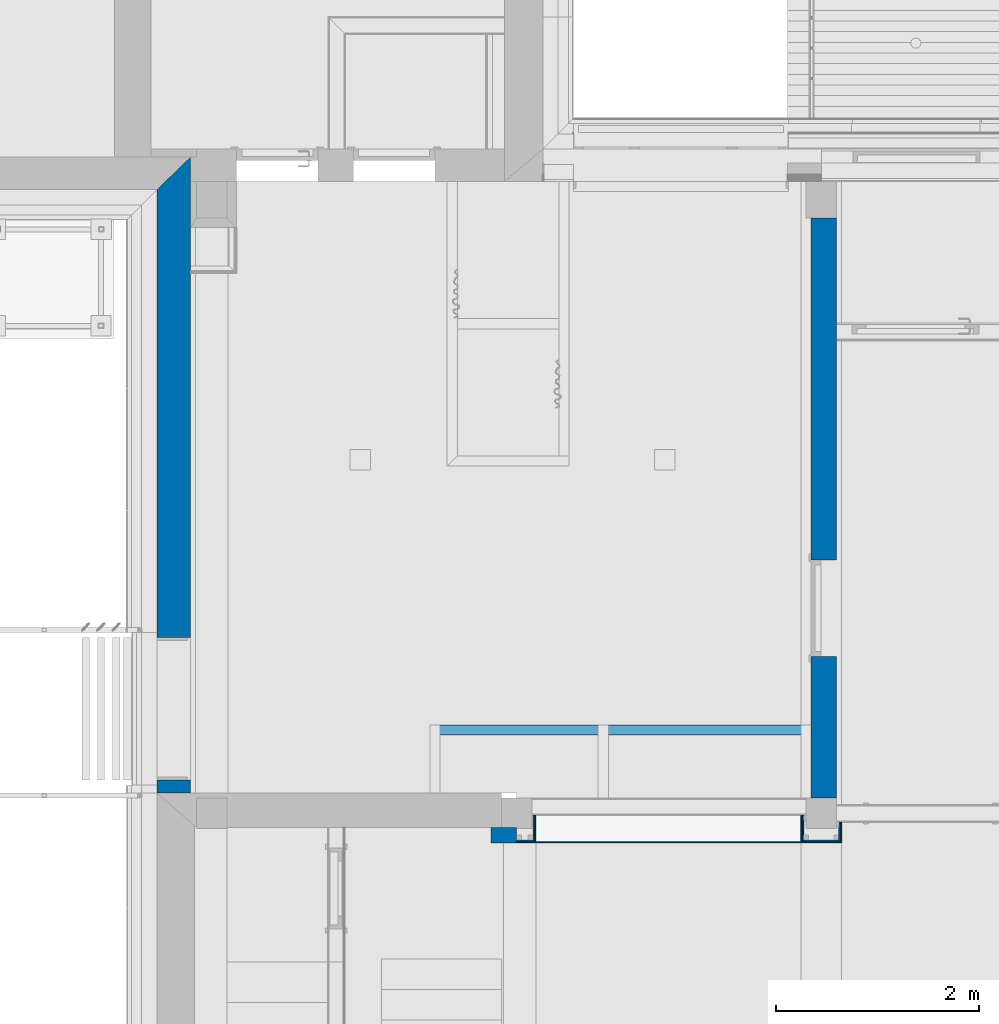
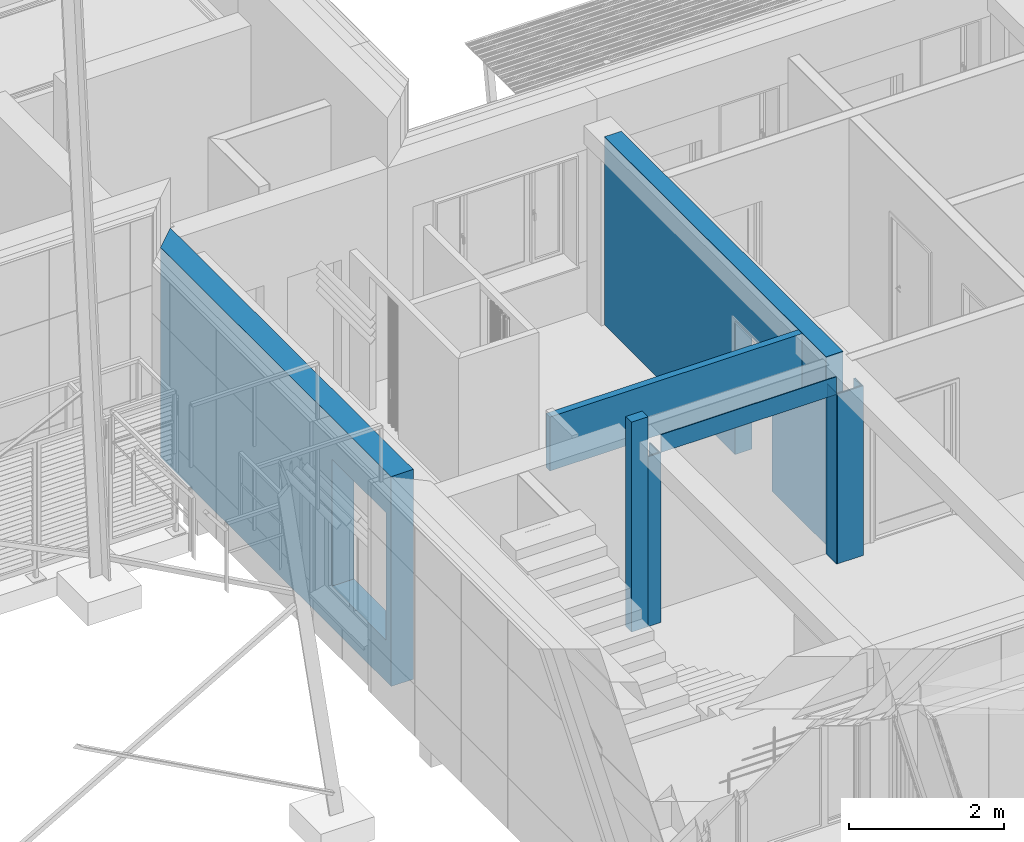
# One storey, part 22 of 418: 15 walls, 2 openings.
"""IFC2X3 building model written with IfcOpenShell, lengths in millimetres."""

from ifc_helpers import new_model, entity, si_unit, converted_unit, derived_unit, money_unit, direction, frame, origin_with_axes, origin_2d_with_axis, place, context, subcontext, project, spatial, polyline, rectangle, outline, extrude, material, layer, layer_set, layer_usage, type_object, element, save


model = new_model("IFC2X3")

# Units and contexts
model_context = context("Model", 3, precision=0.01, world=origin_with_axes(), true_north=direction((0.0, 1.0)))
body_context = subcontext(model_context, "Body", "Model", "MODEL_VIEW")
ifc_project = project(units=[si_unit("LENGTHUNIT", "METRE", prefix="MILLI"), si_unit("AREAUNIT", "SQUARE_METRE"), si_unit("VOLUMEUNIT", "CUBIC_METRE"), converted_unit("PLANEANGLEUNIT", "DEGREE", entity("IfcPlaneAngleMeasure", 0.0174532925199), si_unit("PLANEANGLEUNIT", "RADIAN"), dimensions=[0, 0, 0, 0, 0, 0, 0]), si_unit("SOLIDANGLEUNIT", "STERADIAN"), money_unit("EUR"), converted_unit("TIMEUNIT", "Year", entity("IfcTimeMeasure", 31556926.0), si_unit("TIMEUNIT", "SECOND"), dimensions=[0, 0, 1, 0, 0, 0, 0]), si_unit("MASSUNIT", "GRAM", prefix="KILO"), si_unit("THERMODYNAMICTEMPERATUREUNIT", "DEGREE_CELSIUS"), si_unit("LUMINOUSINTENSITYUNIT", "LUMEN"), si_unit("ENERGYUNIT", "JOULE", prefix="MEGA"), derived_unit("THERMALCONDUCTANCEUNIT", [(si_unit("POWERUNIT", "WATT"), 1), (si_unit("LENGTHUNIT", "METRE"), -1), (si_unit("THERMODYNAMICTEMPERATUREUNIT", "KELVIN"), -1)]), derived_unit("SPECIFICHEATCAPACITYUNIT", [(si_unit("ENERGYUNIT", "JOULE"), 1), (si_unit("MASSUNIT", "GRAM", prefix="KILO"), -1), (si_unit("THERMODYNAMICTEMPERATUREUNIT", "KELVIN"), -1)]), derived_unit("MASSDENSITYUNIT", [(si_unit("MASSUNIT", "GRAM", prefix="KILO"), 1), (si_unit("VOLUMEUNIT", "CUBIC_METRE"), -1)])], contexts=[model_context])

# Site, building, storey
site_placement = place(None, origin_with_axes())
site = spatial("IfcSite", under=ifc_project, at=site_placement, Name="Paldiski mnt 245/1, Tallinn, Harjumaa", CompositionType="COMPLEX")
building_placement = place(site_placement, origin_with_axes())
building = spatial("IfcBuilding", under=site, at=building_placement, Name="RKAS Hoone üldnimetus (kasutust iseloomustav) -> IFC Project Manager -> SOLIBRI", CompositionType="ELEMENT")
storey_placement = place(building_placement, origin_with_axes())
storey = spatial("IfcBuildingStorey", under=building, at=storey_placement, Name="Esimene korrus", CompositionType="ELEMENT", Elevation=0.0)

# Walls
ifc_material_1 = material(Name="KON-00_GENEERILINE - KONSTRUKTSIOON")
ifc_layer_1 = layer(ifc_material_1, 150.0, ventilated="UNKNOWN")
ifc_layer_set_1 = layer_set([ifc_layer_1], Name="KON-00_GENEERILINE - KONSTRUKTSIOON 150")
ifc_layer_usage_1 = layer_usage(ifc_layer_set_1, "AXIS2", "POSITIVE", 0.0)
wall_type_1 = type_object("IfcWallType", Name="KON-00_GENEERILINE - KONSTRUKTSIOON 150", PredefinedType="NOTDEFINED")
wall_1_placement = place(storey_placement, frame((-44440.0, -6470.08408706, 0.0), z_axis=(0.0, 0.0, 1.0), x_axis=(-1.0, 0.0, 0.0)))
element("IfcWallStandardCase", 1, at=wall_1_placement, inside=storey, type_object=wall_type_1, material=ifc_layer_usage_1, Name="Sissein", context=body_context, shape_type="SweptSolid", body=[
    extrude(outline(polyline([(0.0, 0.0), (250.0, 0.0), (250.0, 150.0), (0.0, 150.0), (0.0, 0.0)])), origin_with_axes(), (0.0, 0.0, 1.0), 3300.0),
])
ifc_material_2 = material(Name="Puit - Konstruktsioon")
ifc_layer_2 = layer(ifc_material_2, 100.0, ventilated="UNKNOWN")
ifc_layer_set_2 = layer_set([ifc_layer_2], Name="Puit - Konstruktsioon 100")
ifc_layer_usage_2 = layer_usage(ifc_layer_set_2, "AXIS2", "POSITIVE", -100.0)
wall_type_2 = type_object("IfcWallType", Name="Puit - Konstruktsioon 100", PredefinedType="NOTDEFINED")
wall_2_placement = place(storey_placement, frame((-45290.82036, -5460.02152742, 2100.0), z_axis=(0.0, 0.0, 1.0), x_axis=(1.0, 2.24691153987e-09, 0.0)))
element("IfcWallStandardCase", 2, at=wall_2_placement, inside=storey, type_object=wall_type_2, material=ifc_layer_usage_2, Name="SM-3", context=body_context, shape_type="SweptSolid", body=[
    extrude(outline(polyline([(0.0, -100.0), (3750.82038174, -100.0), (3750.82038174, 0.0), (0.0, 0.0), (0.0, -100.0)])), origin_with_axes(), (0.0, 0.0, 1.0), 850.0),
])
ifc_material_3 = material(Name="SKR-02_Kipsplaat")
ifc_layer_3 = layer(ifc_material_3, 13.0, ventilated="UNKNOWN")
ifc_layer_set_3 = layer_set([ifc_layer_3], Name="SKR-02_Kipsplaat 13")
ifc_layer_usage_3 = layer_usage(ifc_layer_set_3, "AXIS2", "NEGATIVE", 13.0)
wall_type_3 = type_object("IfcWallType", Name="SKR-02_Kipsplaat 13", PredefinedType="NOTDEFINED")
wall_3_placement = place(storey_placement, frame((-41253.0, -6415.0, 0.0), z_axis=(0.0, 0.0, 1.0), x_axis=(0.0, -1.0, 0.0)))
element("IfcWallStandardCase", 3, at=wall_3_placement, inside=storey, type_object=wall_type_3, material=ifc_layer_usage_3, Name="VS-01.6", context=body_context, shape_type="SweptSolid", body=[
    extrude(outline(polyline([(0.0, 0.0), (192.084087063, 0.0), (205.084087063, 13.0), (0.0, 13.0), (0.0, 0.0)])), origin_with_axes(), (0.0, 0.0, 1.0), 2670.0),
])
ifc_layer_usage_4 = layer_usage(ifc_layer_set_3, "AXIS2", "NEGATIVE", 13.0)
wall_4_placement = place(storey_placement, frame((-41614.0, -6594.08408706, 0.0), z_axis=(0.0, 0.0, 1.0), x_axis=(0.0, 1.0, 0.0)))
element("IfcWallStandardCase", 4, at=wall_4_placement, inside=storey, type_object=wall_type_3, material=ifc_layer_usage_4, Name="VS-01.5", context=body_context, shape_type="SweptSolid", body=[
    extrude(outline(polyline([(0.0, 0.0), (244.084087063, 0.0), (244.084087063, 13.0), (-13.0, 13.0), (0.0, 0.0)])), origin_with_axes(), (0.0, 0.0, 1.0), 2670.0),
])
ifc_layer_usage_5 = layer_usage(ifc_layer_set_3, "AXIS2", "NEGATIVE", 13.0)
wall_5_placement = place(storey_placement, frame((-41266.0, -6594.08408706, 0.0), z_axis=(0.0, 0.0, 1.0), x_axis=(-1.0, 0.0, 0.0)))
element("IfcWallStandardCase", 5, at=wall_5_placement, inside=storey, type_object=wall_type_3, material=ifc_layer_usage_5, Name="VS-01.4", context=body_context, shape_type="SweptSolid", body=[
    extrude(outline(polyline([(0.0, 0.0), (348.0, 0.0), (361.0, 13.0), (-13.0, 13.0), (0.0, 0.0)])), origin_with_axes(), (0.0, 0.0, 1.0), 2670.0),
])
ifc_layer_usage_6 = layer_usage(ifc_layer_set_3, "AXIS2", "NEGATIVE", 13.0)
wall_6_placement = place(storey_placement, frame((-41266.0, -6415.0, 0.0), z_axis=(0.0, 0.0, 1.0), x_axis=(0.0, -1.0, 0.0)))
element("IfcWallStandardCase", 6, at=wall_6_placement, inside=storey, type_object=wall_type_3, material=ifc_layer_usage_6, Name="VS-01.3", context=body_context, shape_type="SweptSolid", body=[
    extrude(outline(polyline([(0.0, 0.0), (179.084087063, 0.0), (192.084087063, 13.0), (0.0, 13.0), (0.0, 0.0)])), origin_with_axes(), (0.0, 0.0, 1.0), 2670.0),
])
ifc_layer_usage_7 = layer_usage(ifc_layer_set_3, "AXIS2", "NEGATIVE", 13.0)
wall_7_placement = place(storey_placement, frame((-44262.9999995, -6607.08408706, 0.0), z_axis=(0.0, 0.0, 1.0), x_axis=(-1.0, 0.0, 0.0)))
element("IfcWallStandardCase", 7, at=wall_7_placement, inside=storey, type_object=wall_type_3, material=ifc_layer_usage_7, Name="VS-01.4", context=body_context, shape_type="SweptSolid", body=[
    extrude(outline(polyline([(0.0, 0.0), (177.00000047, 0.0), (177.00000047, 13.0), (-13.0000000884, 13.0), (0.0, 0.0)])), origin_with_axes(), (0.0, 0.0, 1.0), 2670.0),
])
ifc_layer_usage_8 = layer_usage(ifc_layer_set_3, "AXIS2", "NEGATIVE", 13.0)
wall_8_placement = place(storey_placement, frame((-44263.0000013, -6349.99999982, 0.0), z_axis=(0.0, 0.0, 1.0), x_axis=(6.7986095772e-09, -1.0, 0.0)))
element("IfcWallStandardCase", 8, at=wall_8_placement, inside=storey, type_object=wall_type_3, material=ifc_layer_usage_8, Name="VS-01.3", context=body_context, shape_type="SweptSolid", body=[
    extrude(outline(polyline([(0.0, 0.0), (257.084087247, 0.0), (270.084087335, 13.0), (0.0, 13.0), (0.0, 0.0)])), origin_with_axes(), (0.0, 0.0, 1.0), 2670.0),
])
ifc_layer_usage_9 = layer_usage(ifc_layer_set_3, "AXIS2", "NEGATIVE", 13.0)
wall_9_placement = place(storey_placement, frame((-41253.0, -6607.08408706, 0.0), z_axis=(0.0, 0.0, 1.0), x_axis=(-1.0, 0.0, 0.0)))
element("IfcWallStandardCase", 9, at=wall_9_placement, inside=storey, type_object=wall_type_3, material=ifc_layer_usage_9, Name="VS-01.7", context=body_context, shape_type="SweptSolid", body=[
    extrude(outline(polyline([(0.0, 0.0), (374.0, 0.0), (374.0, 13.0), (-13.0, 13.0), (0.0, 0.0)])), origin_with_axes(), (0.0, 0.0, 1.0), 2670.0),
])
ifc_layer_usage_10 = layer_usage(ifc_layer_set_3, "AXIS2", "NEGATIVE", 13.0)
wall_10_placement = place(storey_placement, frame((-41627.0, -6620.08408706, 0.0), z_axis=(0.0, 0.0, 1.0), x_axis=(0.0, 1.0, 0.0)))
element("IfcWallStandardCase", 10, at=wall_10_placement, inside=storey, type_object=wall_type_3, material=ifc_layer_usage_10, Name="VS-01.8", context=body_context, shape_type="SweptSolid", body=[
    extrude(outline(polyline([(0.0, 0.0), (270.084087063, 0.0), (270.084087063, 13.0), (0.0, 13.0), (0.0, 0.0)])), origin_with_axes(), (0.0, 0.0, 1.0), 2670.0),
])
ifc_layer_usage_11 = layer_usage(ifc_layer_set_3, "AXIS2", "NEGATIVE", 13.0)
wall_11_placement = place(storey_placement, frame((-44250.0000219, -6620.08408706, 2670.0), z_axis=(0.0, 0.0, 1.0), x_axis=(1.0, 0.0, 0.0)))
element("IfcWallStandardCase", 11, at=wall_11_placement, inside=storey, type_object=wall_type_3, material=ifc_layer_usage_11, Name="VS-01.7", context=body_context, shape_type="SweptSolid", body=[
    extrude(outline(polyline([(0.0, 0.0), (2610.00002186, 0.0), (2610.00002186, 13.0), (0.0, 13.0), (0.0, 0.0)])), origin_with_axes(), (0.0, 0.0, 1.0), 280.0),
])
ifc_material_4 = material(Name="Kipsplaat Knauf GKF vm")
ifc_layer_4 = layer(ifc_material_4, 13.0, ventilated="UNKNOWN")
ifc_layer_set_4 = layer_set([ifc_layer_4], Name="Kipsplaat Knauf GKF vm 13")
ifc_layer_usage_12 = layer_usage(ifc_layer_set_4, "AXIS2", "NEGATIVE", 13.0)
wall_type_4 = type_object("IfcWallType", Name="Kipsplaat Knauf GKF vm 13", PredefinedType="NOTDEFINED")
wall_12_placement = place(storey_placement, frame((-44276.0, -6594.08408706, 0.0), z_axis=(0.0, 0.0, 1.0), x_axis=(-1.0, 0.0, 0.0)))
element("IfcWallStandardCase", 12, at=wall_12_placement, inside=storey, type_object=wall_type_4, material=ifc_layer_usage_12, Name="VS-01.2", context=body_context, shape_type="SweptSolid", body=[
    extrude(outline(polyline([(0.0, 0.0), (164.0, 0.0), (164.0, 13.0), (-13.0, 13.0), (0.0, 0.0)])), origin_with_axes(), (0.0, 0.0, 1.0), 2670.0),
])
ifc_layer_usage_13 = layer_usage(ifc_layer_set_4, "AXIS2", "NEGATIVE", 13.0)
wall_13_placement = place(storey_placement, frame((-44276.0, -6350.0, 0.0), z_axis=(0.0, 0.0, 1.0), x_axis=(0.0, -1.0, 0.0)))
element("IfcWallStandardCase", 13, at=wall_13_placement, inside=storey, type_object=wall_type_4, material=ifc_layer_usage_13, Name="VS-01.1", context=body_context, shape_type="SweptSolid", body=[
    extrude(outline(polyline([(0.0, 0.0), (244.084087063, 0.0), (257.084087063, 13.0), (0.0, 13.0), (0.0, 0.0)])), origin_with_axes(), (0.0, 0.0, 1.0), 2670.0),
])

# Wall, opening
ifc_material_5 = material(Name="Olemasolev silikaattellis")
ifc_layer_5 = layer(ifc_material_5, 250.0, ventilated="UNKNOWN")
ifc_layer_set_5 = layer_set([ifc_layer_5], Name="Olemasolev silikaattellis 250")
ifc_layer_usage_14 = layer_usage(ifc_layer_set_5, "AXIS2", "NEGATIVE", 0.0)
wall_type_5 = type_object("IfcWallType", Name="Olemasolev silikaattellis 250", PredefinedType="NOTDEFINED")
wall_14_placement = place(storey_placement, frame((-41290.0, -469.999999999, 0.0), z_axis=(0.0, 0.0, 1.0), x_axis=(0.0, -1.0, 0.0)))
wall_14 = element("IfcWallStandardCase", 14, at=wall_14_placement, inside=storey, type_object=wall_type_5, material=ifc_layer_usage_14, Name="SS-01", context=body_context, shape_type="SweptSolid", body=[
    extrude(outline(polyline([(0.0, -250.0), (5710.0, -250.0), (5710.0, 0.0), (0.0, 0.0), (0.0, -250.0)])), origin_with_axes(), (0.0, 0.0, 1.0), 2958.99991095),
])
opening_1_placement = place(wall_14_placement, frame((3840.0, 0.0, 0.0), z_axis=(0.0, 0.0, 1.0), x_axis=(1.0, 0.0, 0.0)))
element("IfcOpeningElement", 15, at=opening_1_placement, cuts=wall_14, Name="SU-07v", context=body_context, shape_type="SweptSolid", body=[
    extrude(rectangle(XDim=950.0, YDim=2100.0, at=origin_2d_with_axis()), frame((0.0, -155.0, 1050.0), z_axis=(0.0, -1.0, 0.0), x_axis=(-1.0, 0.0, 0.0)), (0.0, 0.0, -1.0), 405.0),
    extrude(rectangle(XDim=950.0, YDim=2100.0, at=origin_2d_with_axis()), frame((0.0, -155.0, 1050.0), z_axis=(0.0, 1.0, 0.0), x_axis=(-1.0, 0.0, 0.0)), (0.0, 0.0, -1.0), 345.0),
    extrude(rectangle(XDim=1064.0, YDim=2157.0, at=origin_2d_with_axis()), frame((0.0, -250.0, 1078.5), z_axis=(0.0, 1.0, 0.0), x_axis=(-1.0, 0.0, 0.0)), (0.0, 0.0, -1.0), 405.0),
])

ifc_material_6 = material(Name="Olemasolev silikaltsiitplokk")
ifc_layer_6 = layer(ifc_material_6, 330.0, ventilated="UNKNOWN")
ifc_layer_set_6 = layer_set([ifc_layer_6], Name="Olemasolev silikaltsiitplokk 330")
ifc_layer_usage_15 = layer_usage(ifc_layer_set_6, "AXIS2", "POSITIVE", 0.0)
wall_type_6 = type_object("IfcWallType", Name="Olemasolev silikaltsiitplokk 330", PredefinedType="NOTDEFINED")
wall_15_placement = place(storey_placement, frame((-47650.0, -6130.08408706, 0.0), z_axis=(0.0, 0.0, 1.0), x_axis=(0.0, 1.0, 0.0)))
wall_15 = element("IfcWallStandardCase", 16, at=wall_15_placement, inside=storey, type_object=wall_type_6, material=ifc_layer_usage_15, Name="VS-03", context=body_context, shape_type="SweptSolid", body=[
    extrude(outline(polyline([(0.0, 0.0), (6260.08408706, 0.0), (5940.08408706, 330.0), (0.0, 330.0), (0.0, 0.0)])), origin_with_axes(), (0.0, 0.0, 1.0), 3300.0),
])
opening_2_placement = place(wall_15_placement, frame((830.000002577, 0.0, 650.0), z_axis=(0.0, 0.0, 1.0), x_axis=(1.0, 0.0, 0.0)))
element("IfcOpeningElement", 17, at=opening_2_placement, cuts=wall_15, Name="AVA", context=body_context, shape_type="SweptSolid", body=[
    extrude(rectangle(XDim=1400.0, YDim=2000.0, at=origin_2d_with_axis()), frame((0.0, 230.0, 1000.0), z_axis=(0.0, -1.0, 0.0), x_axis=(1.0, 0.0, 0.0)), (0.0, 0.0, -1.0), 430.0),
    extrude(rectangle(XDim=1400.0, YDim=2000.0, at=origin_2d_with_axis()), frame((0.0, 230.0, 1000.0), z_axis=(0.0, 1.0, 0.0), x_axis=(1.0, 0.0, 0.0)), (0.0, 0.0, -1.0), 430.0),
])

save(model, "model.ifc")
